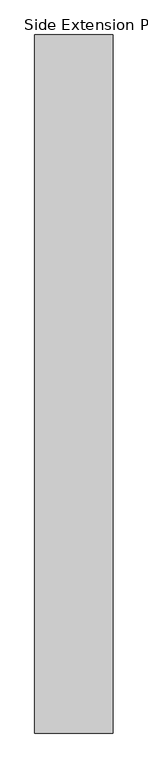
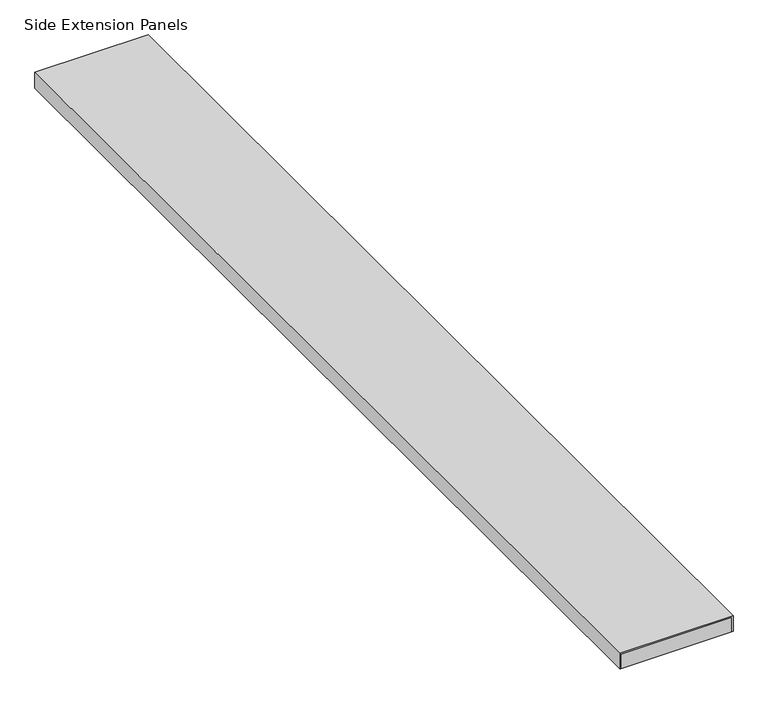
"""IFC4 building model written with IfcOpenShell, lengths in millimetres: proxy geometry, Spinneybeck_Mesa : Side Extension Panels."""

import ifcopenshell
import ifcopenshell.guid

model = None  # the IFC model being written
_history = None  # IfcOwnerHistory: only IFC2X3 demands one
_inside = {}  # id of a spatial element -> (the spatial element, [elements in it])
_under = {}  # id of a project, library or spatial element -> (it, [spatial elements below it])
_declared = {}  # id of a project -> (the project, [libraries it declares])
_typed = {}  # id of a type object -> (the type object, [elements of that type])
_made_of = {}  # id of a material, layer set ... -> (it, [elements and type objects made of it])


def new_model(schema):
    """Start an empty IFC model of exactly this schema.

    Asked for "IFC4X3", IfcOpenShell would pick the latest addendum, in which some entities
    have other attributes; the version numbers below select the first issue.
    IFC2X3 requires an IfcOwnerHistory on every rooted entity: one is made here for all.
    """
    global model, _history
    if schema == "IFC4X3":
        model = ifcopenshell.file(schema_version=(4, 3, 0, 0))
    else:
        model = ifcopenshell.file(schema=schema)
    _inside.clear()
    _under.clear()
    _declared.clear()
    _typed.clear()
    _made_of.clear()
    _history = None
    if model.schema == "IFC2X3":
        org = make("IfcOrganization", Name="unknown")
        user = make(
            "IfcPersonAndOrganization",
            ThePerson=make("IfcPerson", FamilyName="unknown"),
            TheOrganization=org,
        )
        app = make(
            "IfcApplication",
            ApplicationDeveloper=org,
            Version="unknown",
            ApplicationFullName="unknown",
            ApplicationIdentifier="unknown",
        )
        _history = make(
            "IfcOwnerHistory",
            OwningUser=user,
            OwningApplication=app,
            ChangeAction="ADDED",
            CreationDate=0,
        )
    return model


def make(cls, **values):
    """One entity of the class cls with the attributes given. An attribute that is None is left unset."""
    return model.create_entity(
        cls, **{name: value for name, value in values.items() if value is not None}
    )


def rooted(cls, **values):
    """An entity with a GlobalId (a new one), such as an element, a storey or a relation."""
    return make(cls, GlobalId=ifcopenshell.guid.new(), OwnerHistory=_history, **values)


def si_unit(unit_type, name, prefix=None):
    """IfcSIUnit, for example si_unit("LENGTHUNIT", "METRE", prefix="MILLI")."""
    return make("IfcSIUnit", UnitType=unit_type, Prefix=prefix, Name=name)


def assignment(units):
    """IfcUnitAssignment: the units of a project."""
    return None if units is None else make("IfcUnitAssignment", Units=units)


def point(xyz):
    """IfcCartesianPoint."""
    return None if xyz is None else make("IfcCartesianPoint", Coordinates=xyz)


def direction(xyz):
    """IfcDirection."""
    return None if xyz is None else make("IfcDirection", DirectionRatios=xyz)


def frame(location, z_axis=None, x_axis=None):
    """IfcAxis2Placement3D, a coordinate frame: its origin and axes. An axis left out is left unset."""
    return make(
        "IfcAxis2Placement3D",
        Location=point(location),
        Axis=direction(z_axis),
        RefDirection=direction(x_axis),
    )


def origin():
    """The frame at (0, 0, 0) with its axes left unset."""
    return frame((0.0, 0.0, 0.0))


def place(relative_to, where):
    """IfcLocalPlacement: puts the frame where relative to a parent placement (None: the world)."""
    return make(
        "IfcLocalPlacement", PlacementRelTo=relative_to, RelativePlacement=where
    )


def context(
    kind, dimensions, precision=None, world=None, true_north=None, identifier=None
):
    """IfcGeometricRepresentationContext, for example the 3D "Model" context."""
    return make(
        "IfcGeometricRepresentationContext",
        ContextIdentifier=identifier,
        ContextType=kind,
        CoordinateSpaceDimension=dimensions,
        Precision=precision,
        WorldCoordinateSystem=world,
        TrueNorth=true_north,
    )


def project(units=None, contexts=None):
    """IfcProject with its units and contexts."""
    return rooted(
        "IfcProject",
        Name="project",
        RepresentationContexts=contexts,
        UnitsInContext=assignment(units),
    )


def spatial(cls, under=None, at=None, **own):
    """A site, building, storey or space (cls), placed at a placement, below another one or the project."""
    s = rooted(cls, ObjectPlacement=at, **own)
    if under is not None:
        _under.setdefault(under.id(), (under, []))[1].append(s)
    return s


def polyline(points):
    """IfcPolyline through the points."""
    return make("IfcPolyline", Points=[point(p) for p in points])


def outline(outer, holes=None, kind="AREA"):
    """IfcArbitraryClosedProfileDef: a profile drawn as a closed curve; with holes, ...WithVoids."""
    if holes is None:
        return make("IfcArbitraryClosedProfileDef", ProfileType=kind, OuterCurve=outer)
    return make(
        "IfcArbitraryProfileDefWithVoids",
        ProfileType=kind,
        OuterCurve=outer,
        InnerCurves=holes,
    )


def extrude(swept, where, along, depth):
    """IfcExtrudedAreaSolid: the profile swept, set in the frame where, extruded along a direction by depth."""
    return make(
        "IfcExtrudedAreaSolid",
        SweptArea=swept,
        Position=where,
        ExtrudedDirection=direction(along),
        Depth=depth,
    )


def shape(context_of_items, identifier, shape_type, items):
    """IfcShapeRepresentation: the items that make up one representation, for example the "Body"."""
    return make(
        "IfcShapeRepresentation",
        ContextOfItems=context_of_items,
        RepresentationIdentifier=identifier,
        RepresentationType=shape_type,
        Items=items,
    )


def source(mapping_origin, context_of_items, identifier, shape_type, items):
    """IfcRepresentationMap: a shape defined once, which mapped items show again and again."""
    return make(
        "IfcRepresentationMap",
        MappingOrigin=mapping_origin,
        MappedRepresentation=shape(context_of_items, identifier, shape_type, items),
    )


def transform(
    local_origin,
    x_axis=None,
    y_axis=None,
    z_axis=None,
    scale=None,
    scale2=None,
    scale3=None,
    uniform=True,
):
    """IfcCartesianTransformationOperator3D, or its non-uniform kind. x_axis, y_axis, z_axis: its Axis1, 2, 3."""
    if uniform:
        return make(
            "IfcCartesianTransformationOperator3D",
            Axis1=direction(x_axis),
            Axis2=direction(y_axis),
            LocalOrigin=point(local_origin),
            Scale=scale,
            Axis3=direction(z_axis),
        )
    return make(
        "IfcCartesianTransformationOperator3DnonUniform",
        Axis1=direction(x_axis),
        Axis2=direction(y_axis),
        LocalOrigin=point(local_origin),
        Scale=scale,
        Axis3=direction(z_axis),
        Scale2=scale2,
        Scale3=scale3,
    )


def mapped(mapping_source, mapping_target):
    """IfcMappedItem: shows the shape of a source again, moved by a transform."""
    return make(
        "IfcMappedItem", MappingSource=mapping_source, MappingTarget=mapping_target
    )


def made_of(thing, what):
    """Note that an element or type object is made of a material, layer set ...; save() writes the relation."""
    if what is not None:
        _made_of.setdefault(what.id(), (what, []))[1].append(thing)
    return thing


def element(
    cls,
    number,
    at=None,
    inside=None,
    cuts=None,
    type_object=None,
    material=None,
    context=None,
    identifier="Body",
    shape_type=None,
    held_by="IfcProductDefinitionShape",
    body=None,
    shapes=None,
    **own,
):
    """One element of the class cls, such as IfcWall. Its Tag is "e" and its number.

    at: its placement. inside: the storey or other place that contains it. cuts: it is an
    opening in that element (IfcRelVoidsElement). A single representation is given by context,
    identifier, shape_type and body (its items); several are given by shapes. held_by: the class
    of the entity that holds the representations. save() writes the other relations.
    """
    e = rooted(cls, Tag="e%d" % number, ObjectPlacement=at, **own)
    if body is not None:
        shapes = [shape(context, identifier, shape_type, body)]
    if shapes is not None:
        e.Representation = make(held_by, Representations=shapes)
    if inside is not None:
        _inside.setdefault(inside.id(), (inside, []))[1].append(e)
    if cuts is not None:
        rooted(
            "IfcRelVoidsElement", RelatingBuildingElement=cuts, RelatedOpeningElement=e
        )
    if type_object is not None:
        _typed.setdefault(type_object.id(), (type_object, []))[1].append(e)
    return made_of(e, material)


def aggregate(whole, parts):
    """IfcRelAggregates: a whole, such as a stair, and the parts it consists of."""
    return rooted("IfcRelAggregates", RelatingObject=whole, RelatedObjects=parts)


def save(model, path):
    """Write the relations noted so far, then the file.

    IfcRelAggregates (storeys below a building ...), IfcRelContainedInSpatialStructure (elements
    in a storey), IfcRelDefinesByType, IfcRelAssociatesMaterial and IfcRelDeclares: one each for
    every whole, place, type object, material and project.
    """
    for whole, parts in _under.values():
        aggregate(whole, parts)
    for where, things in _inside.values():
        rooted(
            "IfcRelContainedInSpatialStructure",
            RelatedElements=things,
            RelatingStructure=where,
        )
    for kind, things in _typed.values():
        rooted("IfcRelDefinesByType", RelatedObjects=things, RelatingType=kind)
    for what, things in _made_of.values():
        rooted("IfcRelAssociatesMaterial", RelatedObjects=things, RelatingMaterial=what)
    for by, libraries in _declared.values():
        rooted("IfcRelDeclares", RelatingContext=by, RelatedDefinitions=libraries)
    model.write(path)


def side_extension_panels_41801fd4(model_context):
    return source(origin(), model_context, "Body", "SweptSolid", [
        extrude(outline(polyline([(45.9, 136.55), (45.9, -136.55), (6.3564922, -136.55), (6.3564922, -133.550006), (42.9, -133.550006), (42.9, 133.550006), (6.4, 133.550006), (6.4, 136.55), (45.9, 136.55)])), frame((0.0, 0.0, 0.0), z_axis=(0.0, 1.0, 0.0), x_axis=(0.0, 0.0, 1.0)), (0.0, 0.0, 1.0), 2438.35),
        extrude(outline(polyline([(-133.550006, 2438.35), (133.550006, 2438.35), (133.550006, 0.0), (-133.550006, 0.0), (-133.550006, 2438.35)])), frame((0.0, 0.0, 6.4), z_axis=(0.0, 0.0, 1.0), x_axis=(1.0, 0.0, 0.0)), (0.0, 0.0, 1.0), 36.5),
    ])


if __name__ == "__main__":
    model = new_model("IFC4")
    model_context = context("Model", 3, world=origin())
    ifc_project = project(units=[si_unit("LENGTHUNIT", "METRE", prefix="MILLI")], contexts=[model_context])
    site = spatial("IfcSite", under=ifc_project)
    building = spatial("IfcBuilding", under=site)
    placement = place(None, origin())
    side_extension_panels_shape = side_extension_panels_41801fd4(model_context)
    element("IfcBuildingElementProxy", 1, Name="Spinneybeck_Mesa : Side Extension Panels", ObjectType="Spinneybeck_Mesa : Side Extension Panels", at=placement, inside=building, context=model_context, shape_type="MappedRepresentation", body=[
        mapped(side_extension_panels_shape, transform((0.0, 0.0, 0.0), x_axis=(1.0, 0.0, 0.0), y_axis=(0.0, 1.0, 0.0), z_axis=(0.0, 0.0, 1.0))),
    ])
    save(model, "model.ifc")
